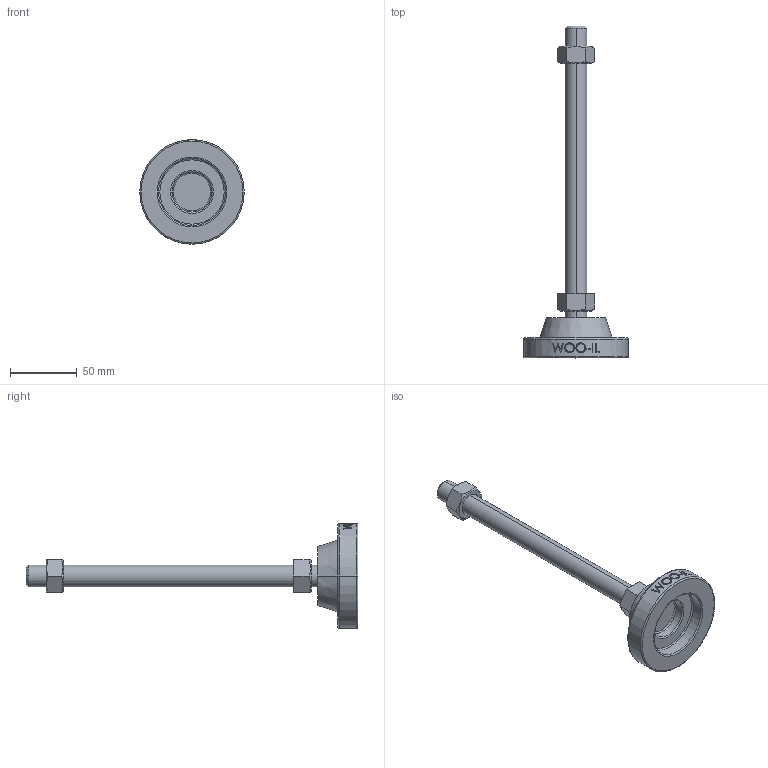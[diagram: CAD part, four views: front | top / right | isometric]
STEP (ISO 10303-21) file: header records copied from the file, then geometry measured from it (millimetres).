
FILE_DESCRIPTION (( 'STEP AP214' ), '1' );
FILE_NAME ('MFU78-M16-200.step', '2021-01-21T06:14:12', ( '' ), ( '' ), 'SwSTEP 2.0', 'SolidWorks 2019', '' );
FILE_SCHEMA (( 'AUTOMOTIVE_DESIGN' ));
Length unit declared in the file: millimetre
Products named in the file (2): MFU78-M16-200
Bounding box: 78 x 248 x 78 mm (x, y, z)
Volume: 126037.1 mm3; surface area: 30923.5 mm2
Topology: 2 solids, 2 shells, 111 faces, 255 edges, 162 vertices
Faces by surface type: plane 49, cylinder 20, bspline 16, cone 14, torus 12
Entity records: 4663 total; most frequent: CARTESIAN_POINT 2202, ORIENTED_EDGE 510, DIRECTION 471, EDGE_CURVE 255, AXIS2_PLACEMENT_3D 185, VERTEX_POINT 162, EDGE_LOOP 127, ADVANCED_FACE 111
